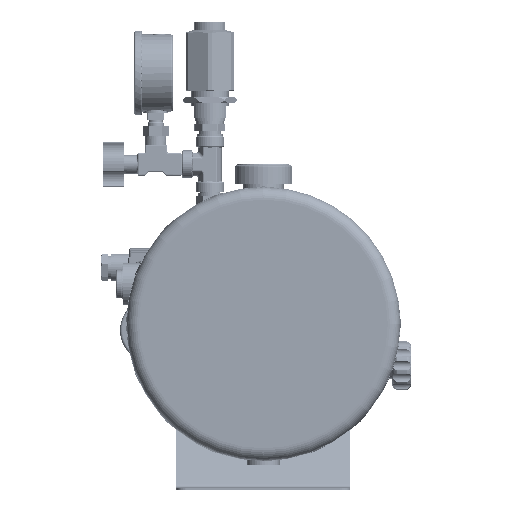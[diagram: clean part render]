
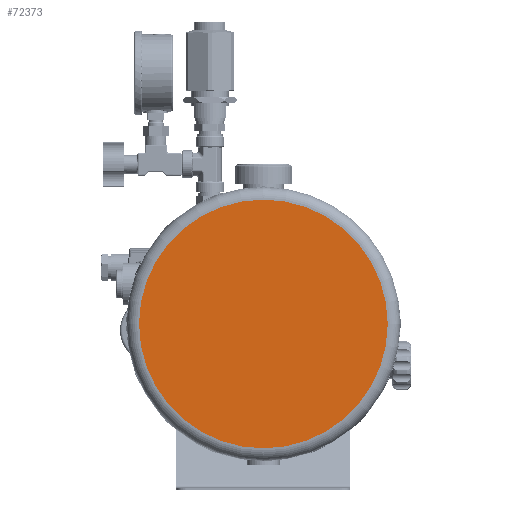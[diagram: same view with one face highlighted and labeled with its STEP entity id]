
A CAD part, left-side view. The second image highlights one B-rep face of the part: STEP entity #72373.
In plain terms, the highlighted planar face has unit normal (-1, 0, 0).
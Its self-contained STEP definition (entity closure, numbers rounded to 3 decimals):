
#14076=PLANE('',#78646);
#17049=FACE_OUTER_BOUND('',#21386,.T.);
#21386=EDGE_LOOP('',(#57300,#57301));
#25397=CIRCLE('',#78647,100.);
#25398=CIRCLE('',#78648,100.);
#31951=VERTEX_POINT('',#149579);
#31952=VERTEX_POINT('',#149580);
#40831=EDGE_CURVE('',#31951,#31952,#25397,.T.);
#40832=EDGE_CURVE('',#31952,#31951,#25398,.T.);
#57300=ORIENTED_EDGE('',*,*,#40831,.T.);
#57301=ORIENTED_EDGE('',*,*,#40832,.T.);
#72373=ADVANCED_FACE('',(#17049),#14076,.T.);
#78646=AXIS2_PLACEMENT_3D('',#149578,#94459,#94460);
#78647=AXIS2_PLACEMENT_3D('',#149581,#94461,#94462);
#78648=AXIS2_PLACEMENT_3D('',#149582,#94463,#94464);
#94459=DIRECTION('center_axis',(-1.,0.,0.));
#94460=DIRECTION('ref_axis',(0.,-1.,0.));
#94461=DIRECTION('center_axis',(-1.,0.,0.));
#94462=DIRECTION('ref_axis',(0.,-1.,0.));
#94463=DIRECTION('center_axis',(-1.,0.,0.));
#94464=DIRECTION('ref_axis',(0.,-1.,0.));
#149578=CARTESIAN_POINT('Origin',(-437.,2517.822,-0.89));
#149579=CARTESIAN_POINT('',(-437.,2417.822,-0.89));
#149580=CARTESIAN_POINT('',(-437.,2617.822,-0.89));
#149581=CARTESIAN_POINT('Origin',(-437.,2517.822,-0.89));
#149582=CARTESIAN_POINT('Origin',(-437.,2517.822,-0.89));
